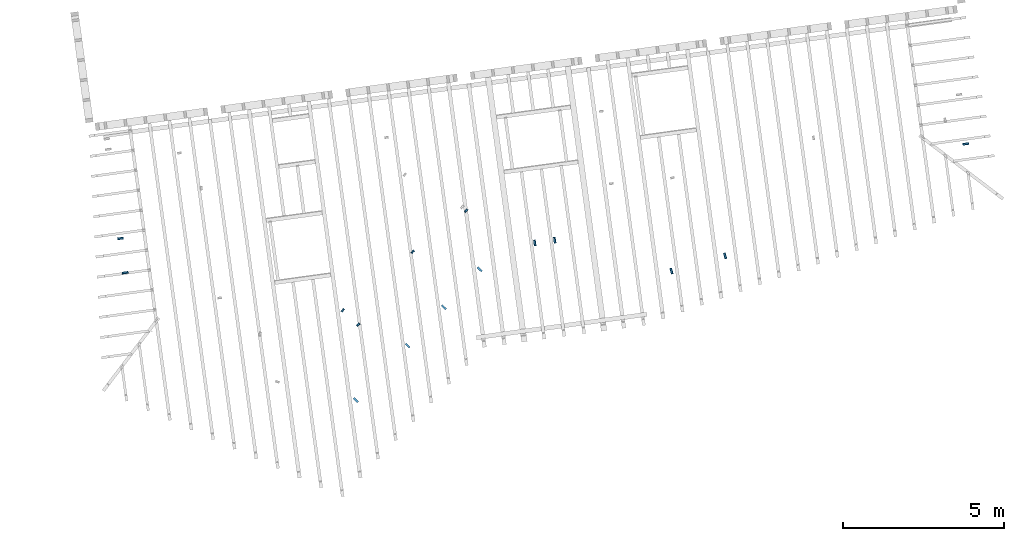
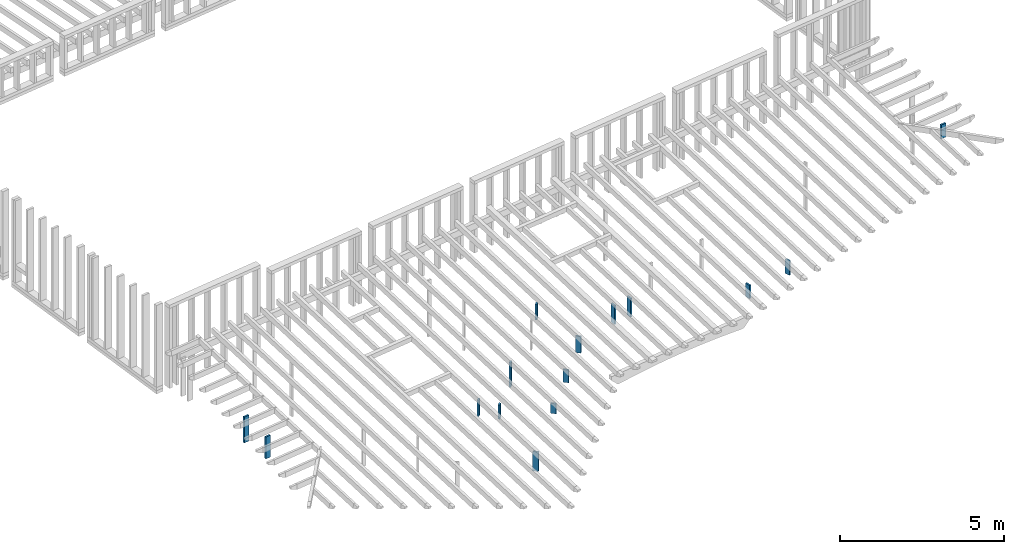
# One storey, part 3 of 16: 15 columns.
"""IFC2X3 building model written with IfcOpenShell, lengths in metres."""

from ifc_helpers import new_model, entity, si_unit, converted_unit, derived_unit, money_unit, direction, frame, origin_with_axes, origin_2d_with_axis, place, context, subcontext, project, spatial, rectangle, extrude, material, type_object, element, save


model = new_model("IFC2X3")

# Units and contexts
model_context = context("Model", 3, precision=1e-05, world=origin_with_axes(), true_north=direction((0.0, 1.0)))
body_context = subcontext(model_context, "Body", "Model", "MODEL_VIEW")
ifc_project = project(units=[si_unit("LENGTHUNIT", "METRE"), si_unit("AREAUNIT", "SQUARE_METRE"), si_unit("VOLUMEUNIT", "CUBIC_METRE"), converted_unit("PLANEANGLEUNIT", "DEGREE", entity("IfcPlaneAngleMeasure", 0.0174532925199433), si_unit("PLANEANGLEUNIT", "RADIAN"), dimensions=[0, 0, 0, 0, 0, 0, 0]), money_unit("EUR"), converted_unit("TIMEUNIT", "Year", entity("IfcTimeMeasure", 31557600.0), si_unit("TIMEUNIT", "SECOND"), dimensions=[0, 0, 1, 0, 0, 0, 0]), si_unit("MASSUNIT", "GRAM", prefix="KILO"), si_unit("THERMODYNAMICTEMPERATUREUNIT", "DEGREE_CELSIUS"), si_unit("LUMINOUSINTENSITYUNIT", "LUMEN"), si_unit("ENERGYUNIT", "JOULE", prefix="MEGA"), derived_unit("THERMALCONDUCTANCEUNIT", [(si_unit("POWERUNIT", "WATT"), 1), (si_unit("LENGTHUNIT", "METRE"), -1), (si_unit("THERMODYNAMICTEMPERATUREUNIT", "KELVIN"), -1)]), derived_unit("SPECIFICHEATCAPACITYUNIT", [(si_unit("ENERGYUNIT", "JOULE"), 1), (si_unit("MASSUNIT", "GRAM", prefix="KILO"), -1), (si_unit("THERMODYNAMICTEMPERATUREUNIT", "KELVIN"), -1)]), derived_unit("MASSDENSITYUNIT", [(si_unit("MASSUNIT", "GRAM", prefix="KILO"), 1), (si_unit("VOLUMEUNIT", "CUBIC_METRE"), -1)])], contexts=[model_context])

# Site, building, storey
site_placement = place(None, origin_with_axes())
site = spatial("IfcSite", under=ifc_project, at=site_placement, Name="Gelände", CompositionType="ELEMENT")
building_placement = place(site_placement, origin_with_axes())
building = spatial("IfcBuilding", under=site, at=building_placement, Name="Gebäude", CompositionType="ELEMENT")
storey_placement = place(building_placement, frame((0.0, 0.0, 3.0), z_axis=(0.0, 0.0, 1.0), x_axis=(1.0, 0.0, 0.0)))
storey = spatial("IfcBuildingStorey", under=building, at=storey_placement, Name="ZG", CompositionType="ELEMENT", Elevation=3.0)

# Columns
ifc_material = material(Name="Bauholz")
column_type_1 = type_object("IfcColumnType", Name="Bauholz 60 x 120", PredefinedType="NOTDEFINED")
column_1_placement = place(storey_placement, frame((98.27751659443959, -153.6027791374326, 0.3543468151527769), z_axis=(0.0, 0.0, 1.0), x_axis=(-0.7262467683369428, 0.6874340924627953, 0.0)))
element("IfcColumn", 1, at=column_1_placement, inside=storey, type_object=column_type_1, material=ifc_material, Name="Stütze-018", context=body_context, shape_type="SweptSolid", body=[
    extrude(rectangle(XDim=0.06, YDim=0.12, at=origin_2d_with_axis()), frame((0.0, 0.0, 0.0), z_axis=(0.0, 0.0, -1.0), x_axis=(-1.0, 0.0, 0.0)), (0.0, 0.0, -1.0), 0.5854092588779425),
])
column_2_placement = place(storey_placement, frame((96.6178850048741, -154.8789319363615, -0.8050000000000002), z_axis=(0.0, 0.0, 1.0), x_axis=(-0.7262467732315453, 0.6874340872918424, 0.0)))
element("IfcColumn", 2, at=column_2_placement, inside=storey, type_object=column_type_1, material=ifc_material, Name="Stütze-018", context=body_context, shape_type="SweptSolid", body=[
    extrude(rectangle(XDim=0.06, YDim=0.12, at=origin_2d_with_axis()), frame((0.0, 0.0, 0.0), z_axis=(0.0, 0.0, -1.0), x_axis=(-1.0, 0.0, 0.0)), (0.0, 0.0, -1.0), 0.9173662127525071),
])
column_3_placement = place(storey_placement, frame((94.9209882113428, -157.1488150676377, -0.02538593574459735), z_axis=(0.0, 0.0, 1.0), x_axis=(-0.7262467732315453, 0.6874340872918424, 0.0)))
element("IfcColumn", 3, at=column_3_placement, inside=storey, type_object=column_type_1, material=ifc_material, Name="Stütze-018", context=body_context, shape_type="SweptSolid", body=[
    extrude(rectangle(XDim=0.06, YDim=0.12, at=origin_2d_with_axis()), frame((0.0, 0.0, 0.0), z_axis=(0.0, 0.0, -1.0), x_axis=(-1.0, 0.0, 0.0)), (0.0, 0.0, -1.0), 0.535408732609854),
])
column_4_placement = place(storey_placement, frame((94.44371743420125, -156.6970509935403, -0.02538593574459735), z_axis=(0.0, 0.0, 1.0), x_axis=(-0.7262467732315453, 0.6874340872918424, 0.0)))
element("IfcColumn", 4, at=column_4_placement, inside=storey, type_object=column_type_1, material=ifc_material, Name="Stütze-018", context=body_context, shape_type="SweptSolid", body=[
    extrude(rectangle(XDim=0.06, YDim=0.12, at=origin_2d_with_axis()), frame((0.0, 0.0, 0.0), z_axis=(0.0, 0.0, -1.0), x_axis=(-1.0, 0.0, 0.0)), (0.0, 0.0, -1.0), 0.6074156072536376),
])
column_type_2 = type_object("IfcColumnType", Name="Bauholz 60 x 180", PredefinedType="NOTDEFINED")
column_5_placement = place(storey_placement, frame((113.8117636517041, -151.5256867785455, 0.414144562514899), z_axis=(0.0, 0.0, 1.0), x_axis=(-0.1357111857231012, 0.9907484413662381, 0.0)))
element("IfcColumn", 5, at=column_5_placement, inside=storey, type_object=column_type_2, material=ifc_material, Name="Stütze-018", context=body_context, shape_type="SweptSolid", body=[
    extrude(rectangle(XDim=0.06, YDim=0.18, at=origin_2d_with_axis()), frame((0.0, 0.0, 0.0), z_axis=(0.0, 0.0, -1.0), x_axis=(-1.0, 0.0, 0.0)), (0.0, 0.0, -1.0), 0.5190109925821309),
])
for number, where, z_axis, x_axis in (
    (6, (100.412971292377, -154.6031864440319, 0.05999999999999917), (0.0, 0.0, 1.0), (0.9907484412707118, 0.1357111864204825, 0.0)),
    (7, (101.0321890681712, -154.5183669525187, 0.05999999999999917), (0.0, 0.0, 1.0), (0.9907484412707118, 0.1357111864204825, 0.0)),
):
    element("IfcColumn", number, at=place(storey_placement, frame(where, z_axis=z_axis, x_axis=x_axis)), inside=storey, type_object=column_type_2, material=ifc_material, Name="Stütze-018", context=body_context, shape_type="SweptSolid", body=[
        extrude(rectangle(XDim=0.06, YDim=0.18, at=origin_2d_with_axis()), origin_with_axes(), (0.0, 0.0, 1.0), 0.6971603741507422),
    ])
column_6_placement = place(storey_placement, frame((106.3292646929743, -155.0059405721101, 0.06000000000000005), z_axis=(0.0, 0.0, 1.0), x_axis=(0.9622006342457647, 0.2723415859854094, 0.0)))
element("IfcColumn", 8, at=column_6_placement, inside=storey, type_object=column_type_2, material=ifc_material, Name="Stütze-018", context=body_context, shape_type="SweptSolid", body=[
    extrude(rectangle(XDim=0.06, YDim=0.18, at=origin_2d_with_axis()), frame((0.0, 0.0, 0.0), z_axis=(0.0, 0.0, -1.0), x_axis=(-1.0, 0.0, 0.0)), (0.0, 0.0, -1.0), 0.5288028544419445),
])
column_7_placement = place(storey_placement, frame((104.6609923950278, -155.4781463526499, 0.05999999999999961), z_axis=(0.0, 0.0, 1.0), x_axis=(0.9622006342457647, 0.2723415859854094, 0.0)))
element("IfcColumn", 9, at=column_7_placement, inside=storey, type_object=column_type_2, material=ifc_material, Name="Stütze-018", context=body_context, shape_type="SweptSolid", body=[
    extrude(rectangle(XDim=0.06, YDim=0.18, at=origin_2d_with_axis()), frame((0.0, 0.0, 0.0), z_axis=(0.0, 0.0, -1.0), x_axis=(-1.0, 0.0, 0.0)), (0.0, 0.0, -1.0), 0.4948711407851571),
])
column_8_placement = place(storey_placement, frame((97.58491009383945, -156.603230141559, 0.0600000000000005), z_axis=(0.0, 0.0, 1.0), x_axis=(0.6874340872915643, 0.7262467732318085, 0.0)))
element("IfcColumn", 10, at=column_8_placement, inside=storey, type_object=column_type_2, material=ifc_material, Name="Stütze-018", context=body_context, shape_type="SweptSolid", body=[
    extrude(rectangle(XDim=0.06, YDim=0.18, at=origin_2d_with_axis()), origin_with_axes(), (0.0, 0.0, 1.0), 0.4747904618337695),
])
column_9_placement = place(storey_placement, frame((87.53253445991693, -154.4649783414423, 0.06000000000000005), z_axis=(0.0, 0.0, 1.0), x_axis=(0.1357111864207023, -0.9907484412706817, 0.0)))
element("IfcColumn", 11, at=column_9_placement, inside=storey, type_object=column_type_2, material=ifc_material, Name="Stütze-018", context=body_context, shape_type="SweptSolid", body=[
    extrude(rectangle(XDim=0.06, YDim=0.18, at=origin_2d_with_axis()), origin_with_axes(), (0.0, 0.0, 1.0), 0.9651096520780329),
])
column_10_placement = place(storey_placement, frame((87.67842394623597, -155.5300329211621, 0.06000000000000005), z_axis=(0.0, 0.0, 1.0), x_axis=(0.1357111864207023, -0.9907484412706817, 0.0)))
element("IfcColumn", 12, at=column_10_placement, inside=storey, type_object=column_type_2, material=ifc_material, Name="Stütze-018", context=body_context, shape_type="SweptSolid", body=[
    extrude(rectangle(XDim=0.06, YDim=0.18, at=origin_2d_with_axis()), origin_with_axes(), (0.0, 0.0, 1.0), 0.8140282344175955),
])
column_11_placement = place(storey_placement, frame((98.69947762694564, -155.4257338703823, 0.0600000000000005), z_axis=(0.0, 0.0, 1.0), x_axis=(0.6874340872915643, 0.7262467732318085, 0.0)))
element("IfcColumn", 13, at=column_11_placement, inside=storey, type_object=column_type_2, material=ifc_material, Name="Stütze-018", context=body_context, shape_type="SweptSolid", body=[
    extrude(rectangle(XDim=0.06, YDim=0.18, at=origin_2d_with_axis()), origin_with_axes(), (0.0, 0.0, 1.0), 0.6174885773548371),
])
column_12_placement = place(storey_placement, frame((96.45751819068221, -157.7942748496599, 0.0200545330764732), z_axis=(0.0, 0.0, 1.0), x_axis=(0.6874340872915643, 0.7262467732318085, 0.0)))
element("IfcColumn", 14, at=column_12_placement, inside=storey, type_object=column_type_2, material=ifc_material, Name="Stütze-018", context=body_context, shape_type="SweptSolid", body=[
    extrude(rectangle(XDim=0.06, YDim=0.18, at=origin_2d_with_axis()), origin_with_axes(), (0.0, 0.0, 1.0), 0.3703959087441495),
])
column_13_placement = place(storey_placement, frame((94.85166249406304, -159.4907975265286, -0.54), z_axis=(0.0, 0.0, 1.0), x_axis=(0.6874340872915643, 0.7262467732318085, 0.0)))
element("IfcColumn", 15, at=column_13_placement, inside=storey, type_object=column_type_2, material=ifc_material, Name="Stütze-018", context=body_context, shape_type="SweptSolid", body=[
    extrude(rectangle(XDim=0.06, YDim=0.18, at=origin_2d_with_axis()), origin_with_axes(), (0.0, 0.0, 1.0), 0.7248526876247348),
])

save(model, "model.ifc")
